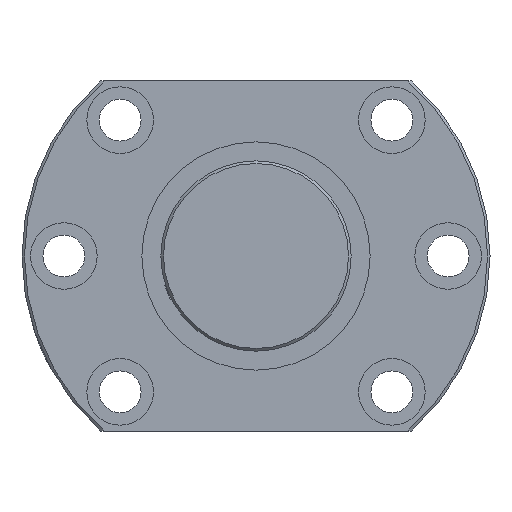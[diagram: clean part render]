
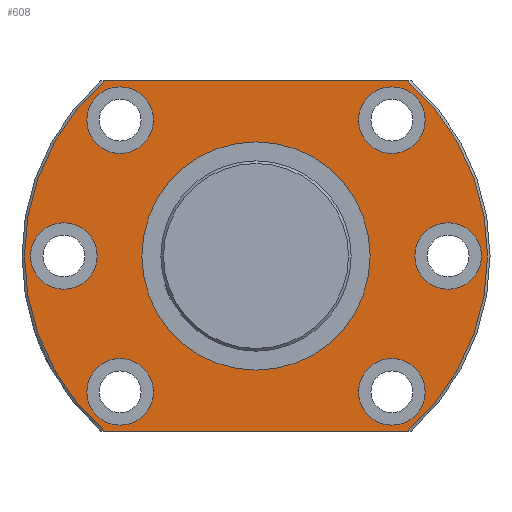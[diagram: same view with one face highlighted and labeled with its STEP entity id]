
A CAD part, left-side view. The second image highlights one B-rep face of the part: STEP entity #608.
In plain terms, the highlighted planar face has unit normal (-1, 0, 0).
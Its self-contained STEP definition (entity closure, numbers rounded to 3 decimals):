
#28=LINE('',#1006,#36);
#29=LINE('',#1011,#37);
#36=VECTOR('',#810,1000.);
#37=VECTOR('',#813,1000.);
#94=ORIENTED_EDGE('',*,*,#224,.T.);
#95=ORIENTED_EDGE('',*,*,#225,.T.);
#96=ORIENTED_EDGE('',*,*,#226,.T.);
#97=ORIENTED_EDGE('',*,*,#227,.T.);
#98=ORIENTED_EDGE('',*,*,#228,.T.);
#99=ORIENTED_EDGE('',*,*,#229,.T.);
#100=ORIENTED_EDGE('',*,*,#230,.T.);
#101=ORIENTED_EDGE('',*,*,#231,.F.);
#102=ORIENTED_EDGE('',*,*,#232,.T.);
#103=ORIENTED_EDGE('',*,*,#233,.F.);
#104=ORIENTED_EDGE('',*,*,#234,.T.);
#224=EDGE_CURVE('',#291,#291,#350,.T.);
#225=EDGE_CURVE('',#292,#292,#351,.T.);
#226=EDGE_CURVE('',#293,#293,#352,.T.);
#227=EDGE_CURVE('',#294,#294,#353,.T.);
#228=EDGE_CURVE('',#295,#295,#354,.T.);
#229=EDGE_CURVE('',#296,#296,#355,.T.);
#230=EDGE_CURVE('',#297,#297,#356,.T.);
#231=EDGE_CURVE('',#298,#299,#28,.T.);
#232=EDGE_CURVE('',#298,#300,#357,.F.);
#233=EDGE_CURVE('',#301,#300,#29,.T.);
#234=EDGE_CURVE('',#301,#299,#358,.F.);
#291=VERTEX_POINT('',#993);
#292=VERTEX_POINT('',#995);
#293=VERTEX_POINT('',#997);
#294=VERTEX_POINT('',#999);
#295=VERTEX_POINT('',#1001);
#296=VERTEX_POINT('',#1003);
#297=VERTEX_POINT('',#1005);
#298=VERTEX_POINT('',#1007);
#299=VERTEX_POINT('',#1008);
#300=VERTEX_POINT('',#1010);
#301=VERTEX_POINT('',#1012);
#350=CIRCLE('',#686,8.75);
#351=CIRCLE('',#687,8.75);
#352=CIRCLE('',#688,8.75);
#353=CIRCLE('',#689,8.75);
#354=CIRCLE('',#690,8.75);
#355=CIRCLE('',#691,8.75);
#356=CIRCLE('',#692,30.);
#357=CIRCLE('',#693,60.85);
#358=CIRCLE('',#694,60.85);
#403=EDGE_LOOP('',(#94));
#404=EDGE_LOOP('',(#95));
#405=EDGE_LOOP('',(#96));
#406=EDGE_LOOP('',(#97));
#407=EDGE_LOOP('',(#98));
#408=EDGE_LOOP('',(#99));
#409=EDGE_LOOP('',(#100));
#410=EDGE_LOOP('',(#101,#102,#103,#104));
#499=FACE_BOUND('',#403,.T.);
#500=FACE_BOUND('',#404,.T.);
#501=FACE_BOUND('',#405,.T.);
#502=FACE_BOUND('',#406,.T.);
#503=FACE_BOUND('',#407,.T.);
#504=FACE_BOUND('',#408,.T.);
#505=FACE_BOUND('',#409,.T.);
#506=FACE_BOUND('',#410,.T.);
#589=PLANE('',#685);
#608=ADVANCED_FACE('',(#499,#500,#501,#502,#503,#504,#505,#506),#589,.F.);
#685=AXIS2_PLACEMENT_3D('',#991,#794,#795);
#686=AXIS2_PLACEMENT_3D('',#992,#796,#797);
#687=AXIS2_PLACEMENT_3D('',#994,#798,#799);
#688=AXIS2_PLACEMENT_3D('',#996,#800,#801);
#689=AXIS2_PLACEMENT_3D('',#998,#802,#803);
#690=AXIS2_PLACEMENT_3D('',#1000,#804,#805);
#691=AXIS2_PLACEMENT_3D('',#1002,#806,#807);
#692=AXIS2_PLACEMENT_3D('',#1004,#808,#809);
#693=AXIS2_PLACEMENT_3D('',#1009,#811,#812);
#694=AXIS2_PLACEMENT_3D('',#1013,#814,#815);
#794=DIRECTION('',(1.,0.,0.));
#795=DIRECTION('',(0.,0.,-1.));
#796=DIRECTION('',(1.,0.,0.));
#797=DIRECTION('',(0.,0.,-1.));
#798=DIRECTION('',(1.,0.,0.));
#799=DIRECTION('',(0.,0.,-1.));
#800=DIRECTION('',(1.,0.,0.));
#801=DIRECTION('',(0.,0.,-1.));
#802=DIRECTION('',(1.,0.,0.));
#803=DIRECTION('',(0.,0.,-1.));
#804=DIRECTION('',(1.,0.,0.));
#805=DIRECTION('',(0.,0.,-1.));
#806=DIRECTION('',(1.,0.,0.));
#807=DIRECTION('',(0.,0.,-1.));
#808=DIRECTION('',(1.,0.,0.));
#809=DIRECTION('',(0.,0.,-1.));
#810=DIRECTION('',(0.,1.,0.));
#811=DIRECTION('',(1.,0.,0.));
#812=DIRECTION('',(0.,0.,-1.));
#813=DIRECTION('',(0.,-1.,0.));
#814=DIRECTION('',(1.,0.,0.));
#815=DIRECTION('',(0.,0.,-1.));
#991=CARTESIAN_POINT('',(0.,0.,0.));
#992=CARTESIAN_POINT('',(0.,35.709,-35.709));
#993=CARTESIAN_POINT('',(0.,35.709,-44.459));
#994=CARTESIAN_POINT('',(0.,-35.709,35.709));
#995=CARTESIAN_POINT('',(0.,-35.709,26.959));
#996=CARTESIAN_POINT('',(0.,35.709,35.709));
#997=CARTESIAN_POINT('',(0.,35.709,26.959));
#998=CARTESIAN_POINT('',(0.,-35.709,-35.709));
#999=CARTESIAN_POINT('',(0.,-35.709,-44.459));
#1000=CARTESIAN_POINT('',(0.,-50.5,0.));
#1001=CARTESIAN_POINT('',(0.,-50.5,-8.75));
#1002=CARTESIAN_POINT('',(0.,50.5,0.));
#1003=CARTESIAN_POINT('',(0.,50.5,-8.75));
#1004=CARTESIAN_POINT('',(0.,0.,0.));
#1005=CARTESIAN_POINT('',(0.,0.,-30.));
#1006=CARTESIAN_POINT('',(0.,-40.82,-46.));
#1007=CARTESIAN_POINT('',(0.,-39.834,-46.));
#1008=CARTESIAN_POINT('',(0.,39.834,-46.));
#1009=CARTESIAN_POINT('',(0.,0.,0.));
#1010=CARTESIAN_POINT('',(0.,-39.834,46.));
#1011=CARTESIAN_POINT('',(0.,40.82,46.));
#1012=CARTESIAN_POINT('',(0.,39.834,46.));
#1013=CARTESIAN_POINT('',(0.,0.,0.));
